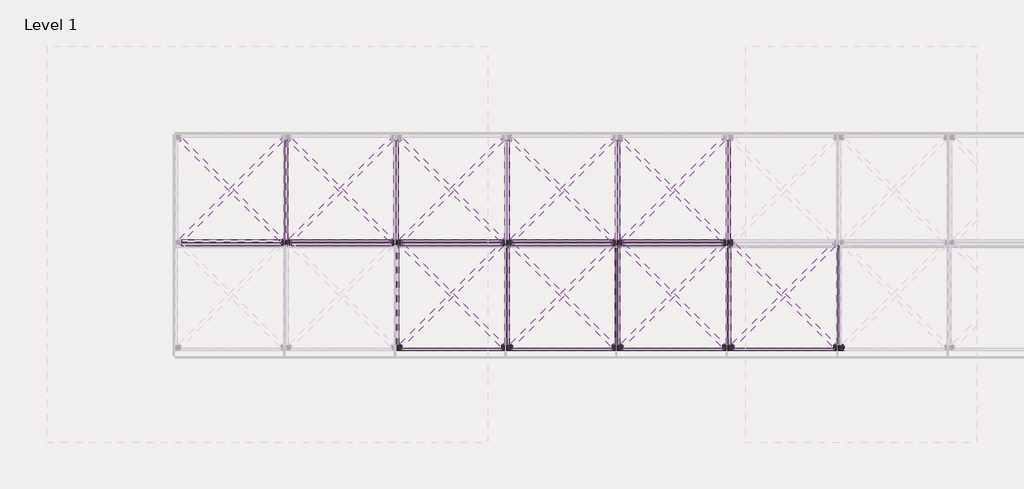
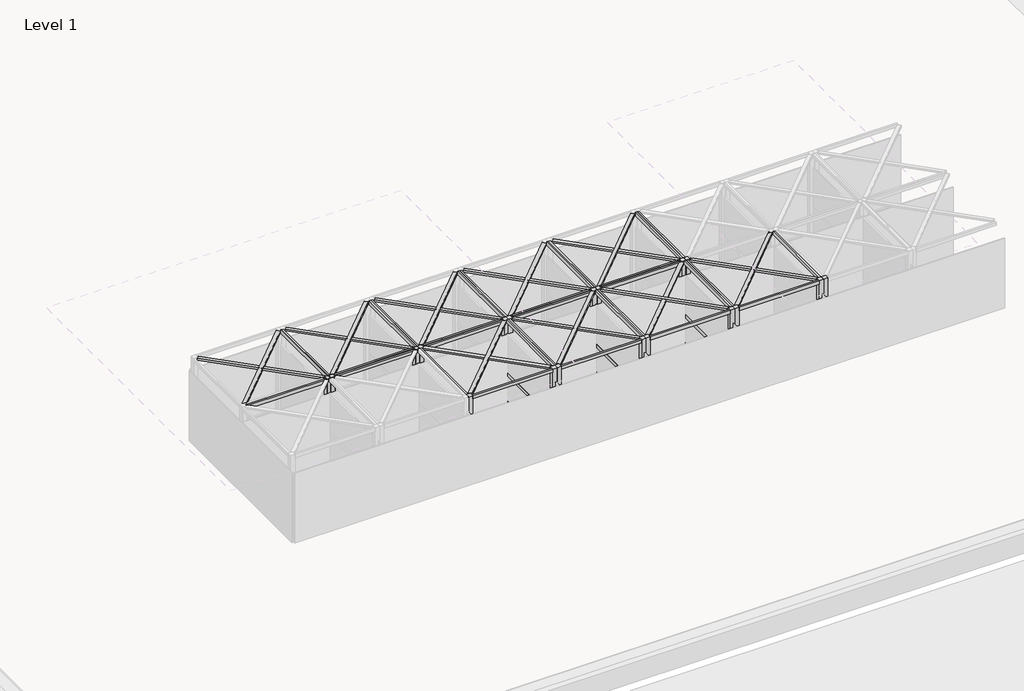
# One storey, part 18 of 32: 103 beams, 29 columns.
"""IFC4 building model written with IfcOpenShell, lengths in millimetres."""

from ifc_helpers import new_model, si_unit, origin, place, context, project, spatial, transform, mapped, element, save
from components import timber_gauged_nz_100_x_50_a05adcf6, timber_gauged_nz_100_x_50_e4b9d06e, timber_gauged_nz_100_x_50_66b63d81, timber_gauged_nz_100_x_50_718b6390, timber_gauged_nz_100_x_50_7774ab14, timber_gauged_nz_100_x_50_be6c7ca1, timber_gauged_nz_100_x_50_6be5a70a, timber_gauged_nz_100_x_50_7b7bee40, timber_gauged_nz_100_x_50_flat_212af973, timber_gauged_nz_100_x_50_flat_8016973c, column_timber_m_114x114_3b5997c2

model = new_model("IFC4")

# Units and contexts
model_context = context("Model", 3, world=origin())
ifc_project = project(units=[si_unit("LENGTHUNIT", "METRE", prefix="MILLI")], contexts=[model_context])

# Site, building, storey
site = spatial("IfcSite", under=ifc_project)
building = spatial("IfcBuilding", under=site)
storey = spatial("IfcBuildingStorey", under=building, Name="Level 1", Elevation=2800.0)

# Beams
placement = place(None, origin())
timber_gauged_nz_100_x_50_shape = timber_gauged_nz_100_x_50_a05adcf6(model_context)
element("IfcBeam", 1, ObjectType="Timber Gauged (NZ) : 100 x 50", at=placement, inside=storey, context=model_context, shape_type="MappedRepresentation", body=[
    mapped(timber_gauged_nz_100_x_50_shape, transform((-77195.3056755, -25111.9011548, 2847.0), x_axis=(1.0, 0.0, 0.0), y_axis=(0.0, 1.0, 0.0), z_axis=(0.0, 0.0, 1.0))),
])
element("IfcBeam", 2, ObjectType="Timber Gauged (NZ) : 100 x 50", at=placement, inside=storey, context=model_context, shape_type="MappedRepresentation", body=[
    mapped(timber_gauged_nz_100_x_50_shape, transform((-74799.6556755, -25111.9011548, 2847.0), x_axis=(1.0, 0.0, 0.0), y_axis=(0.0, 1.0, 0.0), z_axis=(0.0, 0.0, 1.0))),
])
element("IfcBeam", 3, ObjectType="Timber Gauged (NZ) : 100 x 50", at=placement, inside=storey, context=model_context, shape_type="MappedRepresentation", body=[
    mapped(timber_gauged_nz_100_x_50_shape, transform((-72399.6556755, -25111.9011548, 2847.0), x_axis=(1.0, 0.0, 0.0), y_axis=(0.0, 1.0, 0.0), z_axis=(0.0, 0.0, 1.0))),
])
element("IfcBeam", 4, ObjectType="Timber Gauged (NZ) : 100 x 50", at=placement, inside=storey, context=model_context, shape_type="MappedRepresentation", body=[
    mapped(timber_gauged_nz_100_x_50_shape, transform((-69999.6556755, -25111.9011548, 2847.0), x_axis=(1.0, 0.0, 0.0), y_axis=(0.0, 1.0, 0.0), z_axis=(0.0, 0.0, 1.0))),
])
element("IfcBeam", 5, ObjectType="Timber Gauged (NZ) : 100 x 50", at=placement, inside=storey, context=model_context, shape_type="MappedRepresentation", body=[
    mapped(timber_gauged_nz_100_x_50_shape, transform((-69999.6556755, -25182.1175809, 2847.0), x_axis=(-1.0, 0.0, 0.0), y_axis=(0.0, -1.0, 0.0), z_axis=(0.0, 0.0, 1.0))),
])
element("IfcBeam", 6, ObjectType="Timber Gauged (NZ) : 100 x 50", at=placement, inside=storey, context=model_context, shape_type="MappedRepresentation", body=[
    mapped(timber_gauged_nz_100_x_50_shape, transform((-72399.6556755, -25182.1175809, 2847.0), x_axis=(-1.0, 0.0, 0.0), y_axis=(0.0, -1.0, 0.0), z_axis=(0.0, 0.0, 1.0))),
])
element("IfcBeam", 7, ObjectType="Timber Gauged (NZ) : 100 x 50", at=placement, inside=storey, context=model_context, shape_type="MappedRepresentation", body=[
    mapped(timber_gauged_nz_100_x_50_shape, transform((-74804.0056755, -25182.1175809, 2847.0), x_axis=(-1.0, 0.0, 0.0), y_axis=(0.0, -1.0, 0.0), z_axis=(0.0, 0.0, 1.0))),
])
element("IfcBeam", 8, ObjectType="Timber Gauged (NZ) : 100 x 50", at=placement, inside=storey, context=model_context, shape_type="MappedRepresentation", body=[
    mapped(timber_gauged_nz_100_x_50_shape, transform((-77208.3556755, -25182.1175809, 2847.0), x_axis=(-1.0, 0.0, 0.0), y_axis=(0.0, -1.0, 0.0), z_axis=(0.0, 0.0, 1.0))),
])
element("IfcBeam", 9, ObjectType="Timber Gauged (NZ) : 100 x 50", at=placement, inside=storey, context=model_context, shape_type="MappedRepresentation", body=[
    mapped(timber_gauged_nz_100_x_50_shape, transform((-79588.3556755, -25182.1175809, 2847.0), x_axis=(-1.0, 0.0, 0.0), y_axis=(0.0, -1.0, 0.0), z_axis=(0.0, 0.0, 1.0))),
])
timber_gauged_nz_100_x_50_2_shape = timber_gauged_nz_100_x_50_e4b9d06e(model_context)
element("IfcBeam", 10, ObjectType="Timber Gauged (NZ) : 100 x 50", at=placement, inside=storey, context=model_context, shape_type="MappedRepresentation", body=[
    mapped(timber_gauged_nz_100_x_50_2_shape, transform((-74812.8306755, -27464.9011548, 2847.0), x_axis=(1.0, 0.0, 0.0), y_axis=(0.0, 1.0, 0.0), z_axis=(0.0, 0.0, 1.0))),
])
element("IfcBeam", 11, ObjectType="Timber Gauged (NZ) : 100 x 50", at=placement, inside=storey, context=model_context, shape_type="MappedRepresentation", body=[
    mapped(timber_gauged_nz_100_x_50_2_shape, transform((-72412.8306755, -27464.9011548, 2847.0), x_axis=(1.0, 0.0, 0.0), y_axis=(0.0, 1.0, 0.0), z_axis=(0.0, 0.0, 1.0))),
])
element("IfcBeam", 12, ObjectType="Timber Gauged (NZ) : 100 x 50", at=placement, inside=storey, context=model_context, shape_type="MappedRepresentation", body=[
    mapped(timber_gauged_nz_100_x_50_2_shape, transform((-70012.8306755, -27464.9011548, 2847.0), x_axis=(1.0, 0.0, 0.0), y_axis=(0.0, 1.0, 0.0), z_axis=(0.0, 0.0, 1.0))),
])
element("IfcBeam", 13, ObjectType="Timber Gauged (NZ) : 100 x 50", at=placement, inside=storey, context=model_context, shape_type="MappedRepresentation", body=[
    mapped(timber_gauged_nz_100_x_50_2_shape, transform((-67608.4806755, -27464.9011548, 2847.0), x_axis=(1.0, 0.0, 0.0), y_axis=(0.0, 1.0, 0.0), z_axis=(0.0, 0.0, 1.0))),
])
timber_gauged_nz_100_x_50_3_shape = timber_gauged_nz_100_x_50_66b63d81(model_context)
element("IfcBeam", 14, ObjectType="Timber Gauged (NZ) : 100 x 50", at=placement, inside=storey, context=model_context, shape_type="MappedRepresentation", body=[
    mapped(timber_gauged_nz_100_x_50_3_shape, transform((-75976.1556755, -26288.4011548, 2847.0), x_axis=(0.0, -1.0, 0.0), y_axis=(1.0, 0.0, 0.0), z_axis=(0.0, 0.0, 1.0))),
])
element("IfcBeam", 15, ObjectType="Timber Gauged (NZ) : 100 x 50", at=placement, inside=storey, context=model_context, shape_type="MappedRepresentation", body=[
    mapped(timber_gauged_nz_100_x_50_3_shape, transform((-73576.1556755, -26288.4011548, 2847.0), x_axis=(0.0, -1.0, 0.0), y_axis=(1.0, 0.0, 0.0), z_axis=(0.0, 0.0, 1.0))),
])
element("IfcBeam", 16, ObjectType="Timber Gauged (NZ) : 100 x 50", at=placement, inside=storey, context=model_context, shape_type="MappedRepresentation", body=[
    mapped(timber_gauged_nz_100_x_50_3_shape, transform((-71176.1556755, -26288.4011548, 2847.0), x_axis=(0.0, -1.0, 0.0), y_axis=(1.0, 0.0, 0.0), z_axis=(0.0, 0.0, 1.0))),
])
element("IfcBeam", 17, ObjectType="Timber Gauged (NZ) : 100 x 50", at=placement, inside=storey, context=model_context, shape_type="MappedRepresentation", body=[
    mapped(timber_gauged_nz_100_x_50_3_shape, transform((-68771.8056755, -26288.4011548, 2847.0), x_axis=(0.0, -1.0, 0.0), y_axis=(1.0, 0.0, 0.0), z_axis=(0.0, 0.0, 1.0))),
])
element("IfcBeam", 18, ObjectType="Timber Gauged (NZ) : 100 x 50", at=placement, inside=storey, context=model_context, shape_type="MappedRepresentation", body=[
    mapped(timber_gauged_nz_100_x_50_3_shape, transform((-68823.1556755, -24005.6175809, 2847.0), x_axis=(0.0, 1.0, 0.0), y_axis=(-1.0, 0.0, 0.0), z_axis=(0.0, 0.0, 1.0))),
])
element("IfcBeam", 19, ObjectType="Timber Gauged (NZ) : 100 x 50", at=placement, inside=storey, context=model_context, shape_type="MappedRepresentation", body=[
    mapped(timber_gauged_nz_100_x_50_3_shape, transform((-71223.1556755, -24005.6175809, 2847.0), x_axis=(0.0, 1.0, 0.0), y_axis=(-1.0, 0.0, 0.0), z_axis=(0.0, 0.0, 1.0))),
])
element("IfcBeam", 20, ObjectType="Timber Gauged (NZ) : 100 x 50", at=placement, inside=storey, context=model_context, shape_type="MappedRepresentation", body=[
    mapped(timber_gauged_nz_100_x_50_3_shape, transform((-73627.5056755, -24005.6175809, 2847.0), x_axis=(0.0, 1.0, 0.0), y_axis=(-1.0, 0.0, 0.0), z_axis=(0.0, 0.0, 1.0))),
])
element("IfcBeam", 21, ObjectType="Timber Gauged (NZ) : 100 x 50", at=placement, inside=storey, context=model_context, shape_type="MappedRepresentation", body=[
    mapped(timber_gauged_nz_100_x_50_3_shape, transform((-76031.8556755, -24005.6175809, 2847.0), x_axis=(0.0, 1.0, 0.0), y_axis=(-1.0, 0.0, 0.0), z_axis=(0.0, 0.0, 1.0))),
])
element("IfcBeam", 22, ObjectType="Timber Gauged (NZ) : 100 x 50", at=placement, inside=storey, context=model_context, shape_type="MappedRepresentation", body=[
    mapped(timber_gauged_nz_100_x_50_3_shape, transform((-78411.8556755, -24005.6175809, 2847.0), x_axis=(0.0, 1.0, 0.0), y_axis=(-1.0, 0.0, 0.0), z_axis=(0.0, 0.0, 1.0))),
])
element("IfcBeam", 23, ObjectType="Timber Gauged (NZ) : 100 x 50", at=placement, inside=storey, context=model_context, shape_type="MappedRepresentation", body=[
    mapped(timber_gauged_nz_100_x_50_3_shape, transform((-73623.1556755, -26288.4011548, 2847.0), x_axis=(0.0, -1.0, 0.0), y_axis=(1.0, 0.0, 0.0), z_axis=(0.0, 0.0, 1.0))),
])
element("IfcBeam", 24, ObjectType="Timber Gauged (NZ) : 100 x 50", at=placement, inside=storey, context=model_context, shape_type="MappedRepresentation", body=[
    mapped(timber_gauged_nz_100_x_50_3_shape, transform((-71223.1556755, -26288.4011548, 2847.0), x_axis=(0.0, -1.0, 0.0), y_axis=(1.0, 0.0, 0.0), z_axis=(0.0, 0.0, 1.0))),
])
element("IfcBeam", 25, ObjectType="Timber Gauged (NZ) : 100 x 50", at=placement, inside=storey, context=model_context, shape_type="MappedRepresentation", body=[
    mapped(timber_gauged_nz_100_x_50_3_shape, transform((-68823.1556755, -26288.4011548, 2847.0), x_axis=(0.0, -1.0, 0.0), y_axis=(1.0, 0.0, 0.0), z_axis=(0.0, 0.0, 1.0))),
])
element("IfcBeam", 26, ObjectType="Timber Gauged (NZ) : 100 x 50", at=placement, inside=storey, context=model_context, shape_type="MappedRepresentation", body=[
    mapped(timber_gauged_nz_100_x_50_3_shape, transform((-66418.8056755, -26288.4011548, 2847.0), x_axis=(0.0, -1.0, 0.0), y_axis=(1.0, 0.0, 0.0), z_axis=(0.0, 0.0, 1.0))),
])
element("IfcBeam", 27, ObjectType="Timber Gauged (NZ) : 100 x 50", at=placement, inside=storey, context=model_context, shape_type="MappedRepresentation", body=[
    mapped(timber_gauged_nz_100_x_50_3_shape, transform((-68776.1556755, -24005.6175809, 2847.0), x_axis=(0.0, 1.0, 0.0), y_axis=(-1.0, 0.0, 0.0), z_axis=(0.0, 0.0, 1.0))),
])
element("IfcBeam", 28, ObjectType="Timber Gauged (NZ) : 100 x 50", at=placement, inside=storey, context=model_context, shape_type="MappedRepresentation", body=[
    mapped(timber_gauged_nz_100_x_50_3_shape, transform((-71176.1556755, -24005.6175809, 2847.0), x_axis=(0.0, 1.0, 0.0), y_axis=(-1.0, 0.0, 0.0), z_axis=(0.0, 0.0, 1.0))),
])
element("IfcBeam", 29, ObjectType="Timber Gauged (NZ) : 100 x 50", at=placement, inside=storey, context=model_context, shape_type="MappedRepresentation", body=[
    mapped(timber_gauged_nz_100_x_50_3_shape, transform((-73576.1556755, -24005.6175809, 2847.0), x_axis=(0.0, 1.0, 0.0), y_axis=(-1.0, 0.0, 0.0), z_axis=(0.0, 0.0, 1.0))),
])
element("IfcBeam", 30, ObjectType="Timber Gauged (NZ) : 100 x 50", at=placement, inside=storey, context=model_context, shape_type="MappedRepresentation", body=[
    mapped(timber_gauged_nz_100_x_50_3_shape, transform((-75980.5056755, -24005.6175809, 2847.0), x_axis=(0.0, 1.0, 0.0), y_axis=(-1.0, 0.0, 0.0), z_axis=(0.0, 0.0, 1.0))),
])
element("IfcBeam", 31, ObjectType="Timber Gauged (NZ) : 100 x 50", at=placement, inside=storey, context=model_context, shape_type="MappedRepresentation", body=[
    mapped(timber_gauged_nz_100_x_50_3_shape, transform((-78384.8556755, -24005.6175809, 2847.0), x_axis=(0.0, 1.0, 0.0), y_axis=(-1.0, 0.0, 0.0), z_axis=(0.0, 0.0, 1.0))),
])
timber_gauged_nz_100_x_50_4_shape = timber_gauged_nz_100_x_50_718b6390(model_context)
element("IfcBeam", 32, ObjectType="Timber Gauged (NZ) : 100 x 50", at=placement, inside=storey, context=model_context, shape_type="MappedRepresentation", body=[
    mapped(timber_gauged_nz_100_x_50_4_shape, transform((-79607.5056755, -25111.9011548, 3653.0), x_axis=(1.0, 0.0, 0.0), y_axis=(0.0, 1.0, 0.0), z_axis=(0.0, 0.0, 1.0))),
])
element("IfcBeam", 33, ObjectType="Timber Gauged (NZ) : 100 x 50", at=placement, inside=storey, context=model_context, shape_type="MappedRepresentation", body=[
    mapped(timber_gauged_nz_100_x_50_4_shape, transform((-77203.1556755, -25111.9011548, 5153.0), x_axis=(1.0, 0.0, 0.0), y_axis=(0.0, 1.0, 0.0), z_axis=(0.0, 0.0, 1.0))),
])
element("IfcBeam", 34, ObjectType="Timber Gauged (NZ) : 100 x 50", at=placement, inside=storey, context=model_context, shape_type="MappedRepresentation", body=[
    mapped(timber_gauged_nz_100_x_50_4_shape, transform((-77203.1556755, -25111.9011548, 3653.0), x_axis=(1.0, 0.0, 0.0), y_axis=(0.0, 1.0, 0.0), z_axis=(0.0, 0.0, 1.0))),
])
element("IfcBeam", 35, ObjectType="Timber Gauged (NZ) : 100 x 50", at=placement, inside=storey, context=model_context, shape_type="MappedRepresentation", body=[
    mapped(timber_gauged_nz_100_x_50_4_shape, transform((-74807.5056755, -25111.9011548, 5153.0), x_axis=(1.0, 0.0, 0.0), y_axis=(0.0, 1.0, 0.0), z_axis=(0.0, 0.0, 1.0))),
])
element("IfcBeam", 36, ObjectType="Timber Gauged (NZ) : 100 x 50", at=placement, inside=storey, context=model_context, shape_type="MappedRepresentation", body=[
    mapped(timber_gauged_nz_100_x_50_4_shape, transform((-74807.5056755, -25111.9011548, 3653.0), x_axis=(1.0, 0.0, 0.0), y_axis=(0.0, 1.0, 0.0), z_axis=(0.0, 0.0, 1.0))),
])
element("IfcBeam", 37, ObjectType="Timber Gauged (NZ) : 100 x 50", at=placement, inside=storey, context=model_context, shape_type="MappedRepresentation", body=[
    mapped(timber_gauged_nz_100_x_50_4_shape, transform((-72407.5056755, -25111.9011548, 5153.0), x_axis=(1.0, 0.0, 0.0), y_axis=(0.0, 1.0, 0.0), z_axis=(0.0, 0.0, 1.0))),
])
element("IfcBeam", 38, ObjectType="Timber Gauged (NZ) : 100 x 50", at=placement, inside=storey, context=model_context, shape_type="MappedRepresentation", body=[
    mapped(timber_gauged_nz_100_x_50_4_shape, transform((-72407.5056755, -25111.9011548, 3653.0), x_axis=(1.0, 0.0, 0.0), y_axis=(0.0, 1.0, 0.0), z_axis=(0.0, 0.0, 1.0))),
])
element("IfcBeam", 39, ObjectType="Timber Gauged (NZ) : 100 x 50", at=placement, inside=storey, context=model_context, shape_type="MappedRepresentation", body=[
    mapped(timber_gauged_nz_100_x_50_4_shape, transform((-70007.5056755, -25111.9011548, 5153.0), x_axis=(1.0, 0.0, 0.0), y_axis=(0.0, 1.0, 0.0), z_axis=(0.0, 0.0, 1.0))),
])
element("IfcBeam", 40, ObjectType="Timber Gauged (NZ) : 100 x 50", at=placement, inside=storey, context=model_context, shape_type="MappedRepresentation", body=[
    mapped(timber_gauged_nz_100_x_50_4_shape, transform((-70007.5056755, -25111.9011548, 3653.0), x_axis=(1.0, 0.0, 0.0), y_axis=(0.0, 1.0, 0.0), z_axis=(0.0, 0.0, 1.0))),
])
element("IfcBeam", 41, ObjectType="Timber Gauged (NZ) : 100 x 50", at=placement, inside=storey, context=model_context, shape_type="MappedRepresentation", body=[
    mapped(timber_gauged_nz_100_x_50_4_shape, transform((-69991.8056755, -25182.1175809, 5153.0), x_axis=(-1.0, 0.0, 0.0), y_axis=(0.0, -1.0, 0.0), z_axis=(0.0, 0.0, 1.0))),
])
element("IfcBeam", 42, ObjectType="Timber Gauged (NZ) : 100 x 50", at=placement, inside=storey, context=model_context, shape_type="MappedRepresentation", body=[
    mapped(timber_gauged_nz_100_x_50_4_shape, transform((-69991.8056755, -25182.1175809, 3653.0), x_axis=(-1.0, 0.0, 0.0), y_axis=(0.0, -1.0, 0.0), z_axis=(0.0, 0.0, 1.0))),
])
element("IfcBeam", 43, ObjectType="Timber Gauged (NZ) : 100 x 50", at=placement, inside=storey, context=model_context, shape_type="MappedRepresentation", body=[
    mapped(timber_gauged_nz_100_x_50_4_shape, transform((-72391.8056755, -25182.1175809, 5153.0), x_axis=(-1.0, 0.0, 0.0), y_axis=(0.0, -1.0, 0.0), z_axis=(0.0, 0.0, 1.0))),
])
element("IfcBeam", 44, ObjectType="Timber Gauged (NZ) : 100 x 50", at=placement, inside=storey, context=model_context, shape_type="MappedRepresentation", body=[
    mapped(timber_gauged_nz_100_x_50_4_shape, transform((-72391.8056755, -25182.1175809, 3653.0), x_axis=(-1.0, 0.0, 0.0), y_axis=(0.0, -1.0, 0.0), z_axis=(0.0, 0.0, 1.0))),
])
element("IfcBeam", 45, ObjectType="Timber Gauged (NZ) : 100 x 50", at=placement, inside=storey, context=model_context, shape_type="MappedRepresentation", body=[
    mapped(timber_gauged_nz_100_x_50_4_shape, transform((-74796.1556755, -25182.1175809, 5153.0), x_axis=(-1.0, 0.0, 0.0), y_axis=(0.0, -1.0, 0.0), z_axis=(0.0, 0.0, 1.0))),
])
element("IfcBeam", 46, ObjectType="Timber Gauged (NZ) : 100 x 50", at=placement, inside=storey, context=model_context, shape_type="MappedRepresentation", body=[
    mapped(timber_gauged_nz_100_x_50_4_shape, transform((-74796.1556755, -25182.1175809, 3653.0), x_axis=(-1.0, 0.0, 0.0), y_axis=(0.0, -1.0, 0.0), z_axis=(0.0, 0.0, 1.0))),
])
element("IfcBeam", 47, ObjectType="Timber Gauged (NZ) : 100 x 50", at=placement, inside=storey, context=model_context, shape_type="MappedRepresentation", body=[
    mapped(timber_gauged_nz_100_x_50_4_shape, transform((-77200.5056755, -25182.1175809, 5153.0), x_axis=(-1.0, 0.0, 0.0), y_axis=(0.0, -1.0, 0.0), z_axis=(0.0, 0.0, 1.0))),
])
element("IfcBeam", 48, ObjectType="Timber Gauged (NZ) : 100 x 50", at=placement, inside=storey, context=model_context, shape_type="MappedRepresentation", body=[
    mapped(timber_gauged_nz_100_x_50_4_shape, transform((-77200.5056755, -25182.1175809, 3653.0), x_axis=(-1.0, 0.0, 0.0), y_axis=(0.0, -1.0, 0.0), z_axis=(0.0, 0.0, 1.0))),
])
element("IfcBeam", 49, ObjectType="Timber Gauged (NZ) : 100 x 50", at=placement, inside=storey, context=model_context, shape_type="MappedRepresentation", body=[
    mapped(timber_gauged_nz_100_x_50_4_shape, transform((-79580.5056755, -25182.1175809, 5153.0), x_axis=(-1.0, 0.0, 0.0), y_axis=(0.0, -1.0, 0.0), z_axis=(0.0, 0.0, 1.0))),
])
element("IfcBeam", 50, ObjectType="Timber Gauged (NZ) : 100 x 50", at=placement, inside=storey, context=model_context, shape_type="MappedRepresentation", body=[
    mapped(timber_gauged_nz_100_x_50_4_shape, transform((-79580.5056755, -25182.1175809, 3653.0), x_axis=(-1.0, 0.0, 0.0), y_axis=(0.0, -1.0, 0.0), z_axis=(0.0, 0.0, 1.0))),
])
timber_gauged_nz_100_x_50_5_shape = timber_gauged_nz_100_x_50_7774ab14(model_context)
element("IfcBeam", 51, ObjectType="Timber Gauged (NZ) : 100 x 50", at=placement, inside=storey, context=model_context, shape_type="MappedRepresentation", body=[
    mapped(timber_gauged_nz_100_x_50_5_shape, transform((-74795.0056755, -27464.9011548, 5153.0), x_axis=(1.0, 0.0, 0.0), y_axis=(0.0, 1.0, 0.0), z_axis=(0.0, 0.0, 1.0))),
])
element("IfcBeam", 52, ObjectType="Timber Gauged (NZ) : 100 x 50", at=placement, inside=storey, context=model_context, shape_type="MappedRepresentation", body=[
    mapped(timber_gauged_nz_100_x_50_5_shape, transform((-72395.0056755, -27464.9011548, 5153.0), x_axis=(1.0, 0.0, 0.0), y_axis=(0.0, 1.0, 0.0), z_axis=(0.0, 0.0, 1.0))),
])
element("IfcBeam", 53, ObjectType="Timber Gauged (NZ) : 100 x 50", at=placement, inside=storey, context=model_context, shape_type="MappedRepresentation", body=[
    mapped(timber_gauged_nz_100_x_50_5_shape, transform((-69995.0056755, -27464.9011548, 5153.0), x_axis=(1.0, 0.0, 0.0), y_axis=(0.0, 1.0, 0.0), z_axis=(0.0, 0.0, 1.0))),
])
element("IfcBeam", 54, ObjectType="Timber Gauged (NZ) : 100 x 50", at=placement, inside=storey, context=model_context, shape_type="MappedRepresentation", body=[
    mapped(timber_gauged_nz_100_x_50_5_shape, transform((-67590.6556755, -27464.9011548, 5153.0), x_axis=(1.0, 0.0, 0.0), y_axis=(0.0, 1.0, 0.0), z_axis=(0.0, 0.0, 1.0))),
])
timber_gauged_nz_100_x_50_6_shape = timber_gauged_nz_100_x_50_be6c7ca1(model_context)
element("IfcBeam", 55, ObjectType="Timber Gauged (NZ) : 100 x 50", at=placement, inside=storey, context=model_context, shape_type="MappedRepresentation", body=[
    mapped(timber_gauged_nz_100_x_50_6_shape, transform((-75976.1556755, -26219.9011548, 5153.0), x_axis=(0.0, -1.0, 0.0), y_axis=(1.0, 0.0, 0.0), z_axis=(0.0, 0.0, 1.0))),
])
element("IfcBeam", 56, ObjectType="Timber Gauged (NZ) : 100 x 50", at=placement, inside=storey, context=model_context, shape_type="MappedRepresentation", body=[
    mapped(timber_gauged_nz_100_x_50_6_shape, transform((-73576.1556755, -26219.9011548, 5153.0), x_axis=(0.0, -1.0, 0.0), y_axis=(1.0, 0.0, 0.0), z_axis=(0.0, 0.0, 1.0))),
])
element("IfcBeam", 57, ObjectType="Timber Gauged (NZ) : 100 x 50", at=placement, inside=storey, context=model_context, shape_type="MappedRepresentation", body=[
    mapped(timber_gauged_nz_100_x_50_6_shape, transform((-71176.1556755, -26219.9011548, 5153.0), x_axis=(0.0, -1.0, 0.0), y_axis=(1.0, 0.0, 0.0), z_axis=(0.0, 0.0, 1.0))),
])
element("IfcBeam", 58, ObjectType="Timber Gauged (NZ) : 100 x 50", at=placement, inside=storey, context=model_context, shape_type="MappedRepresentation", body=[
    mapped(timber_gauged_nz_100_x_50_6_shape, transform((-68771.8056755, -26219.9011548, 5153.0), x_axis=(0.0, -1.0, 0.0), y_axis=(1.0, 0.0, 0.0), z_axis=(0.0, 0.0, 1.0))),
])
element("IfcBeam", 59, ObjectType="Timber Gauged (NZ) : 100 x 50", at=placement, inside=storey, context=model_context, shape_type="MappedRepresentation", body=[
    mapped(timber_gauged_nz_100_x_50_6_shape, transform((-68823.1556755, -24074.1175809, 5153.0), x_axis=(0.0, 1.0, 0.0), y_axis=(-1.0, 0.0, 0.0), z_axis=(0.0, 0.0, 1.0))),
])
element("IfcBeam", 60, ObjectType="Timber Gauged (NZ) : 100 x 50", at=placement, inside=storey, context=model_context, shape_type="MappedRepresentation", body=[
    mapped(timber_gauged_nz_100_x_50_6_shape, transform((-71223.1556755, -24074.1175809, 5153.0), x_axis=(0.0, 1.0, 0.0), y_axis=(-1.0, 0.0, 0.0), z_axis=(0.0, 0.0, 1.0))),
])
element("IfcBeam", 61, ObjectType="Timber Gauged (NZ) : 100 x 50", at=placement, inside=storey, context=model_context, shape_type="MappedRepresentation", body=[
    mapped(timber_gauged_nz_100_x_50_6_shape, transform((-73627.5056755, -24074.1175809, 5153.0), x_axis=(0.0, 1.0, 0.0), y_axis=(-1.0, 0.0, 0.0), z_axis=(0.0, 0.0, 1.0))),
])
element("IfcBeam", 62, ObjectType="Timber Gauged (NZ) : 100 x 50", at=placement, inside=storey, context=model_context, shape_type="MappedRepresentation", body=[
    mapped(timber_gauged_nz_100_x_50_6_shape, transform((-76031.8556755, -24074.1175809, 5153.0), x_axis=(0.0, 1.0, 0.0), y_axis=(-1.0, 0.0, 0.0), z_axis=(0.0, 0.0, 1.0))),
])
element("IfcBeam", 63, ObjectType="Timber Gauged (NZ) : 100 x 50", at=placement, inside=storey, context=model_context, shape_type="MappedRepresentation", body=[
    mapped(timber_gauged_nz_100_x_50_6_shape, transform((-78411.8556755, -24074.1175809, 5153.0), x_axis=(0.0, 1.0, 0.0), y_axis=(-1.0, 0.0, 0.0), z_axis=(0.0, 0.0, 1.0))),
])
timber_gauged_nz_100_x_50_7_shape = timber_gauged_nz_100_x_50_6be5a70a(model_context)
element("IfcBeam", 64, ObjectType="Timber Gauged (NZ) : 100 x 50", at=placement, inside=storey, context=model_context, shape_type="MappedRepresentation", body=[
    mapped(timber_gauged_nz_100_x_50_7_shape, transform((-73623.1556755, -26264.9011548, 5153.0), x_axis=(0.0, -1.0, 0.0), y_axis=(1.0, 0.0, 0.0), z_axis=(0.0, 0.0, 1.0))),
])
element("IfcBeam", 65, ObjectType="Timber Gauged (NZ) : 100 x 50", at=placement, inside=storey, context=model_context, shape_type="MappedRepresentation", body=[
    mapped(timber_gauged_nz_100_x_50_7_shape, transform((-71223.1556755, -26264.9011548, 5153.0), x_axis=(0.0, -1.0, 0.0), y_axis=(1.0, 0.0, 0.0), z_axis=(0.0, 0.0, 1.0))),
])
element("IfcBeam", 66, ObjectType="Timber Gauged (NZ) : 100 x 50", at=placement, inside=storey, context=model_context, shape_type="MappedRepresentation", body=[
    mapped(timber_gauged_nz_100_x_50_7_shape, transform((-68823.1556755, -26264.9011548, 5153.0), x_axis=(0.0, -1.0, 0.0), y_axis=(1.0, 0.0, 0.0), z_axis=(0.0, 0.0, 1.0))),
])
element("IfcBeam", 67, ObjectType="Timber Gauged (NZ) : 100 x 50", at=placement, inside=storey, context=model_context, shape_type="MappedRepresentation", body=[
    mapped(timber_gauged_nz_100_x_50_7_shape, transform((-66418.8056755, -26264.9011548, 5153.0), x_axis=(0.0, -1.0, 0.0), y_axis=(1.0, 0.0, 0.0), z_axis=(0.0, 0.0, 1.0))),
])
element("IfcBeam", 68, ObjectType="Timber Gauged (NZ) : 100 x 50", at=placement, inside=storey, context=model_context, shape_type="MappedRepresentation", body=[
    mapped(timber_gauged_nz_100_x_50_7_shape, transform((-68776.1556755, -24029.1175809, 5153.0), x_axis=(0.0, 1.0, 0.0), y_axis=(-1.0, 0.0, 0.0), z_axis=(0.0, 0.0, 1.0))),
])
element("IfcBeam", 69, ObjectType="Timber Gauged (NZ) : 100 x 50", at=placement, inside=storey, context=model_context, shape_type="MappedRepresentation", body=[
    mapped(timber_gauged_nz_100_x_50_7_shape, transform((-71176.1556755, -24029.1175809, 5153.0), x_axis=(0.0, 1.0, 0.0), y_axis=(-1.0, 0.0, 0.0), z_axis=(0.0, 0.0, 1.0))),
])
element("IfcBeam", 70, ObjectType="Timber Gauged (NZ) : 100 x 50", at=placement, inside=storey, context=model_context, shape_type="MappedRepresentation", body=[
    mapped(timber_gauged_nz_100_x_50_7_shape, transform((-73576.1556755, -24029.1175809, 5153.0), x_axis=(0.0, 1.0, 0.0), y_axis=(-1.0, 0.0, 0.0), z_axis=(0.0, 0.0, 1.0))),
])
element("IfcBeam", 71, ObjectType="Timber Gauged (NZ) : 100 x 50", at=placement, inside=storey, context=model_context, shape_type="MappedRepresentation", body=[
    mapped(timber_gauged_nz_100_x_50_7_shape, transform((-75980.5056755, -24029.1175809, 5153.0), x_axis=(0.0, 1.0, 0.0), y_axis=(-1.0, 0.0, 0.0), z_axis=(0.0, 0.0, 1.0))),
])
element("IfcBeam", 72, ObjectType="Timber Gauged (NZ) : 100 x 50", at=placement, inside=storey, context=model_context, shape_type="MappedRepresentation", body=[
    mapped(timber_gauged_nz_100_x_50_7_shape, transform((-78384.8556755, -24029.1175809, 5153.0), x_axis=(0.0, 1.0, 0.0), y_axis=(-1.0, 0.0, 0.0), z_axis=(0.0, 0.0, 1.0))),
])
timber_gauged_nz_100_x_50_8_shape = timber_gauged_nz_100_x_50_7b7bee40(model_context)
element("IfcBeam", 73, ObjectType="Timber Gauged (NZ) : 100 x 50", at=placement, inside=storey, context=model_context, shape_type="MappedRepresentation", body=[
    mapped(timber_gauged_nz_100_x_50_8_shape, transform((-75976.1556755, -26344.9011548, 3653.0), x_axis=(0.0, -1.0, 0.0), y_axis=(1.0, 0.0, 0.0), z_axis=(0.0, 0.0, 1.0))),
])
element("IfcBeam", 74, ObjectType="Timber Gauged (NZ) : 100 x 50", at=placement, inside=storey, context=model_context, shape_type="MappedRepresentation", body=[
    mapped(timber_gauged_nz_100_x_50_8_shape, transform((-73576.1556755, -26344.9011548, 3653.0), x_axis=(0.0, -1.0, 0.0), y_axis=(1.0, 0.0, 0.0), z_axis=(0.0, 0.0, 1.0))),
])
element("IfcBeam", 75, ObjectType="Timber Gauged (NZ) : 100 x 50", at=placement, inside=storey, context=model_context, shape_type="MappedRepresentation", body=[
    mapped(timber_gauged_nz_100_x_50_8_shape, transform((-71176.1556755, -26344.9011548, 3653.0), x_axis=(0.0, -1.0, 0.0), y_axis=(1.0, 0.0, 0.0), z_axis=(0.0, 0.0, 1.0))),
])
element("IfcBeam", 76, ObjectType="Timber Gauged (NZ) : 100 x 50", at=placement, inside=storey, context=model_context, shape_type="MappedRepresentation", body=[
    mapped(timber_gauged_nz_100_x_50_8_shape, transform((-68771.8056755, -26344.9011548, 3653.0), x_axis=(0.0, -1.0, 0.0), y_axis=(1.0, 0.0, 0.0), z_axis=(0.0, 0.0, 1.0))),
])
element("IfcBeam", 77, ObjectType="Timber Gauged (NZ) : 100 x 50", at=placement, inside=storey, context=model_context, shape_type="MappedRepresentation", body=[
    mapped(timber_gauged_nz_100_x_50_7_shape, transform((-73623.1556755, -26264.7011548, 3653.0), x_axis=(0.0, -1.0, 0.0), y_axis=(1.0, 0.0, 0.0), z_axis=(0.0, 0.0, 1.0))),
])
element("IfcBeam", 78, ObjectType="Timber Gauged (NZ) : 100 x 50", at=placement, inside=storey, context=model_context, shape_type="MappedRepresentation", body=[
    mapped(timber_gauged_nz_100_x_50_7_shape, transform((-71223.1556755, -26264.7011548, 3653.0), x_axis=(0.0, -1.0, 0.0), y_axis=(1.0, 0.0, 0.0), z_axis=(0.0, 0.0, 1.0))),
])
element("IfcBeam", 79, ObjectType="Timber Gauged (NZ) : 100 x 50", at=placement, inside=storey, context=model_context, shape_type="MappedRepresentation", body=[
    mapped(timber_gauged_nz_100_x_50_7_shape, transform((-68823.1556755, -26264.7011548, 3653.0), x_axis=(0.0, -1.0, 0.0), y_axis=(1.0, 0.0, 0.0), z_axis=(0.0, 0.0, 1.0))),
])
element("IfcBeam", 80, ObjectType="Timber Gauged (NZ) : 100 x 50", at=placement, inside=storey, context=model_context, shape_type="MappedRepresentation", body=[
    mapped(timber_gauged_nz_100_x_50_7_shape, transform((-66418.8056755, -26264.7011548, 3653.0), x_axis=(0.0, -1.0, 0.0), y_axis=(1.0, 0.0, 0.0), z_axis=(0.0, 0.0, 1.0))),
])
element("IfcBeam", 81, ObjectType="Timber Gauged (NZ) : 100 x 50", at=placement, inside=storey, context=model_context, shape_type="MappedRepresentation", body=[
    mapped(timber_gauged_nz_100_x_50_7_shape, transform((-68776.1556755, -24029.3175809, 3653.0), x_axis=(0.0, 1.0, 0.0), y_axis=(-1.0, 0.0, 0.0), z_axis=(0.0, 0.0, 1.0))),
])
element("IfcBeam", 82, ObjectType="Timber Gauged (NZ) : 100 x 50", at=placement, inside=storey, context=model_context, shape_type="MappedRepresentation", body=[
    mapped(timber_gauged_nz_100_x_50_7_shape, transform((-71176.1556755, -24029.3175809, 3653.0), x_axis=(0.0, 1.0, 0.0), y_axis=(-1.0, 0.0, 0.0), z_axis=(0.0, 0.0, 1.0))),
])
element("IfcBeam", 83, ObjectType="Timber Gauged (NZ) : 100 x 50", at=placement, inside=storey, context=model_context, shape_type="MappedRepresentation", body=[
    mapped(timber_gauged_nz_100_x_50_7_shape, transform((-73576.1556755, -24029.3175809, 3653.0), x_axis=(0.0, 1.0, 0.0), y_axis=(-1.0, 0.0, 0.0), z_axis=(0.0, 0.0, 1.0))),
])
element("IfcBeam", 84, ObjectType="Timber Gauged (NZ) : 100 x 50", at=placement, inside=storey, context=model_context, shape_type="MappedRepresentation", body=[
    mapped(timber_gauged_nz_100_x_50_7_shape, transform((-75980.5056755, -24029.3175809, 3653.0), x_axis=(0.0, 1.0, 0.0), y_axis=(-1.0, 0.0, 0.0), z_axis=(0.0, 0.0, 1.0))),
])
element("IfcBeam", 85, ObjectType="Timber Gauged (NZ) : 100 x 50", at=placement, inside=storey, context=model_context, shape_type="MappedRepresentation", body=[
    mapped(timber_gauged_nz_100_x_50_7_shape, transform((-78384.8556755, -24029.3175809, 3653.0), x_axis=(0.0, 1.0, 0.0), y_axis=(-1.0, 0.0, 0.0), z_axis=(0.0, 0.0, 1.0))),
])
timber_gauged_nz_100_x_50_flat_shape = timber_gauged_nz_100_x_50_flat_212af973(model_context)
element("IfcBeam", 86, ObjectType="Timber Gauged (NZ) : 100 x 50 Flat", at=placement, inside=storey, context=model_context, shape_type="MappedRepresentation", body=[
    mapped(timber_gauged_nz_100_x_50_flat_shape, transform((-74795.4150144, -26283.5138698, 5176.5), x_axis=(0.707106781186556, 0.7071067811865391, 0.0), y_axis=(-0.7071067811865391, 0.707106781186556, 0.0), z_axis=(0.0, 0.0, 1.0))),
])
element("IfcBeam", 87, ObjectType="Timber Gauged (NZ) : 100 x 50 Flat", at=placement, inside=storey, context=model_context, shape_type="MappedRepresentation", body=[
    mapped(timber_gauged_nz_100_x_50_flat_shape, transform((-72395.4150144, -26283.5138698, 5176.5), x_axis=(0.707106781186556, 0.7071067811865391, 0.0), y_axis=(-0.7071067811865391, 0.707106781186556, 0.0), z_axis=(0.0, 0.0, 1.0))),
])
element("IfcBeam", 88, ObjectType="Timber Gauged (NZ) : 100 x 50 Flat", at=placement, inside=storey, context=model_context, shape_type="MappedRepresentation", body=[
    mapped(timber_gauged_nz_100_x_50_flat_shape, transform((-69995.4150144, -26283.5138698, 5176.5), x_axis=(0.707106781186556, 0.7071067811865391, 0.0), y_axis=(-0.7071067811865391, 0.707106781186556, 0.0), z_axis=(0.0, 0.0, 1.0))),
])
element("IfcBeam", 89, ObjectType="Timber Gauged (NZ) : 100 x 50 Flat", at=placement, inside=storey, context=model_context, shape_type="MappedRepresentation", body=[
    mapped(timber_gauged_nz_100_x_50_flat_shape, transform((-67591.0650144, -26283.5138698, 5176.5), x_axis=(0.707106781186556, 0.7071067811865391, 0.0), y_axis=(-0.7071067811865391, 0.707106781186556, 0.0), z_axis=(0.0, 0.0, 1.0))),
])
element("IfcBeam", 90, ObjectType="Timber Gauged (NZ) : 100 x 50 Flat", at=placement, inside=storey, context=model_context, shape_type="MappedRepresentation", body=[
    mapped(timber_gauged_nz_100_x_50_flat_shape, transform((-70003.8963365, -24010.5048659, 5176.5), x_axis=(-0.7071067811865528, -0.7071067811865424, 0.0), y_axis=(0.7071067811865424, -0.7071067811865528, 0.0), z_axis=(0.0, 0.0, 1.0))),
])
element("IfcBeam", 91, ObjectType="Timber Gauged (NZ) : 100 x 50 Flat", at=placement, inside=storey, context=model_context, shape_type="MappedRepresentation", body=[
    mapped(timber_gauged_nz_100_x_50_flat_shape, transform((-72403.8963365, -24010.5048659, 5176.5), x_axis=(-0.7071067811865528, -0.7071067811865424, 0.0), y_axis=(0.7071067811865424, -0.7071067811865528, 0.0), z_axis=(0.0, 0.0, 1.0))),
])
element("IfcBeam", 92, ObjectType="Timber Gauged (NZ) : 100 x 50 Flat", at=placement, inside=storey, context=model_context, shape_type="MappedRepresentation", body=[
    mapped(timber_gauged_nz_100_x_50_flat_shape, transform((-74808.2463365, -24010.5048659, 5176.5), x_axis=(-0.7071067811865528, -0.7071067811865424, 0.0), y_axis=(0.7071067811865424, -0.7071067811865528, 0.0), z_axis=(0.0, 0.0, 1.0))),
])
element("IfcBeam", 93, ObjectType="Timber Gauged (NZ) : 100 x 50 Flat", at=placement, inside=storey, context=model_context, shape_type="MappedRepresentation", body=[
    mapped(timber_gauged_nz_100_x_50_flat_shape, transform((-77212.5963365, -24010.5048659, 5176.5), x_axis=(-0.7071067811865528, -0.7071067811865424, 0.0), y_axis=(0.7071067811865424, -0.7071067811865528, 0.0), z_axis=(0.0, 0.0, 1.0))),
])
element("IfcBeam", 94, ObjectType="Timber Gauged (NZ) : 100 x 50 Flat", at=placement, inside=storey, context=model_context, shape_type="MappedRepresentation", body=[
    mapped(timber_gauged_nz_100_x_50_flat_shape, transform((-79592.5963365, -24010.5048659, 5176.5), x_axis=(-0.7071067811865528, -0.7071067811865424, 0.0), y_axis=(0.7071067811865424, -0.7071067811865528, 0.0), z_axis=(0.0, 0.0, 1.0))),
])
timber_gauged_nz_100_x_50_flat_2_shape = timber_gauged_nz_100_x_50_flat_8016973c(model_context)
element("IfcBeam", 95, ObjectType="Timber Gauged (NZ) : 100 x 50 Flat", at=placement, inside=storey, context=model_context, shape_type="MappedRepresentation", body=[
    mapped(timber_gauged_nz_100_x_50_flat_2_shape, transform((-74849.1551298, -26238.2590359, 5176.5), x_axis=(0.7071067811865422, -0.7071067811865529, 0.0), y_axis=(0.7071067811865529, 0.7071067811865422, 0.0), z_axis=(0.0, 0.0, 1.0))),
])
element("IfcBeam", 96, ObjectType="Timber Gauged (NZ) : 100 x 50 Flat", at=placement, inside=storey, context=model_context, shape_type="MappedRepresentation", body=[
    mapped(timber_gauged_nz_100_x_50_flat_2_shape, transform((-72449.1551298, -26238.2590359, 5176.5), x_axis=(0.7071067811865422, -0.7071067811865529, 0.0), y_axis=(0.7071067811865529, 0.7071067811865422, 0.0), z_axis=(0.0, 0.0, 1.0))),
])
element("IfcBeam", 97, ObjectType="Timber Gauged (NZ) : 100 x 50 Flat", at=placement, inside=storey, context=model_context, shape_type="MappedRepresentation", body=[
    mapped(timber_gauged_nz_100_x_50_flat_2_shape, transform((-70049.1551298, -26238.2590359, 5176.5), x_axis=(0.7071067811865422, -0.7071067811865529, 0.0), y_axis=(0.7071067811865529, 0.7071067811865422, 0.0), z_axis=(0.0, 0.0, 1.0))),
])
element("IfcBeam", 98, ObjectType="Timber Gauged (NZ) : 100 x 50 Flat", at=placement, inside=storey, context=model_context, shape_type="MappedRepresentation", body=[
    mapped(timber_gauged_nz_100_x_50_flat_2_shape, transform((-67644.8051298, -26238.2590359, 5176.5), x_axis=(0.7071067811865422, -0.7071067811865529, 0.0), y_axis=(0.7071067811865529, 0.7071067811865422, 0.0), z_axis=(0.0, 0.0, 1.0))),
])
element("IfcBeam", 99, ObjectType="Timber Gauged (NZ) : 100 x 50 Flat", at=placement, inside=storey, context=model_context, shape_type="MappedRepresentation", body=[
    mapped(timber_gauged_nz_100_x_50_flat_2_shape, transform((-69950.1562211, -24055.7596999, 5176.5), x_axis=(-0.7071067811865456, 0.7071067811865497, 0.0), y_axis=(-0.7071067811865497, -0.7071067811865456, 0.0), z_axis=(0.0, 0.0, 1.0))),
])
element("IfcBeam", 100, ObjectType="Timber Gauged (NZ) : 100 x 50 Flat", at=placement, inside=storey, context=model_context, shape_type="MappedRepresentation", body=[
    mapped(timber_gauged_nz_100_x_50_flat_2_shape, transform((-72350.1562211, -24055.7596999, 5176.5), x_axis=(-0.7071067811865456, 0.7071067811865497, 0.0), y_axis=(-0.7071067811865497, -0.7071067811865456, 0.0), z_axis=(0.0, 0.0, 1.0))),
])
element("IfcBeam", 101, ObjectType="Timber Gauged (NZ) : 100 x 50 Flat", at=placement, inside=storey, context=model_context, shape_type="MappedRepresentation", body=[
    mapped(timber_gauged_nz_100_x_50_flat_2_shape, transform((-74754.5062211, -24055.7596999, 5176.5), x_axis=(-0.7071067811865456, 0.7071067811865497, 0.0), y_axis=(-0.7071067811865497, -0.7071067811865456, 0.0), z_axis=(0.0, 0.0, 1.0))),
])
element("IfcBeam", 102, ObjectType="Timber Gauged (NZ) : 100 x 50 Flat", at=placement, inside=storey, context=model_context, shape_type="MappedRepresentation", body=[
    mapped(timber_gauged_nz_100_x_50_flat_2_shape, transform((-77158.8562211, -24055.7596999, 5176.5), x_axis=(-0.7071067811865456, 0.7071067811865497, 0.0), y_axis=(-0.7071067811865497, -0.7071067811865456, 0.0), z_axis=(0.0, 0.0, 1.0))),
])
element("IfcBeam", 103, ObjectType="Timber Gauged (NZ) : 100 x 50 Flat", at=placement, inside=storey, context=model_context, shape_type="MappedRepresentation", body=[
    mapped(timber_gauged_nz_100_x_50_flat_2_shape, transform((-79538.8562211, -24055.7596999, 5176.5), x_axis=(-0.7071067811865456, 0.7071067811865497, 0.0), y_axis=(-0.7071067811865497, -0.7071067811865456, 0.0), z_axis=(0.0, 0.0, 1.0))),
])

# Columns
column_timber_m_114x114_shape = column_timber_m_114x114_3b5997c2(model_context)
element("IfcColumn", 104, ObjectType="Column Timber (M) : 114x114", at=placement, inside=storey, context=model_context, shape_type="MappedRepresentation", body=[
    mapped(column_timber_m_114x114_shape, transform((-78456.8056755, -25145.5511548, 0.0), x_axis=(1.0, 0.0, 0.0), y_axis=(0.0, 1.0, 0.0), z_axis=(0.0, 0.0, 1.0))),
])
element("IfcColumn", 105, ObjectType="Column Timber (M) : 114x114", at=placement, inside=storey, context=model_context, shape_type="MappedRepresentation", body=[
    mapped(column_timber_m_114x114_shape, transform((-78338.1556755, -25145.5511548, 0.0), x_axis=(1.0, 0.0, 0.0), y_axis=(0.0, 1.0, 0.0), z_axis=(0.0, 0.0, 1.0))),
])
element("IfcColumn", 106, ObjectType="Column Timber (M) : 114x114", at=placement, inside=storey, context=model_context, shape_type="MappedRepresentation", body=[
    mapped(column_timber_m_114x114_shape, transform((-76052.4556755, -25145.5511548, 0.0), x_axis=(1.0, 0.0, 0.0), y_axis=(0.0, 1.0, 0.0), z_axis=(0.0, 0.0, 1.0))),
])
element("IfcColumn", 107, ObjectType="Column Timber (M) : 114x114", at=placement, inside=storey, context=model_context, shape_type="MappedRepresentation", body=[
    mapped(column_timber_m_114x114_shape, transform((-75942.5056755, -27431.2511548, 0.0), x_axis=(1.0, 0.0, 0.0), y_axis=(0.0, 1.0, 0.0), z_axis=(0.0, 0.0, 1.0))),
])
element("IfcColumn", 108, ObjectType="Column Timber (M) : 114x114", at=placement, inside=storey, context=model_context, shape_type="MappedRepresentation", body=[
    mapped(column_timber_m_114x114_shape, transform((-75942.5056755, -25145.5511548, 0.0), x_axis=(1.0, 0.0, 0.0), y_axis=(0.0, 1.0, 0.0), z_axis=(0.0, 0.0, 1.0))),
])
element("IfcColumn", 109, ObjectType="Column Timber (M) : 114x114", at=placement, inside=storey, context=model_context, shape_type="MappedRepresentation", body=[
    mapped(column_timber_m_114x114_shape, transform((-73656.8056755, -25145.5511548, 0.0), x_axis=(1.0, 0.0, 0.0), y_axis=(0.0, 1.0, 0.0), z_axis=(0.0, 0.0, 1.0))),
])
element("IfcColumn", 110, ObjectType="Column Timber (M) : 114x114", at=placement, inside=storey, context=model_context, shape_type="MappedRepresentation", body=[
    mapped(column_timber_m_114x114_shape, transform((-73656.8056755, -27431.2511548, 0.0), x_axis=(1.0, 0.0, 0.0), y_axis=(0.0, 1.0, 0.0), z_axis=(0.0, 0.0, 1.0))),
])
element("IfcColumn", 111, ObjectType="Column Timber (M) : 114x114", at=placement, inside=storey, context=model_context, shape_type="MappedRepresentation", body=[
    mapped(column_timber_m_114x114_shape, transform((-73542.5056755, -27431.2511548, 0.0), x_axis=(1.0, 0.0, 0.0), y_axis=(0.0, 1.0, 0.0), z_axis=(0.0, 0.0, 1.0))),
])
element("IfcColumn", 112, ObjectType="Column Timber (M) : 114x114", at=placement, inside=storey, context=model_context, shape_type="MappedRepresentation", body=[
    mapped(column_timber_m_114x114_shape, transform((-73542.5056755, -25145.5511548, 0.0), x_axis=(1.0, 0.0, 0.0), y_axis=(0.0, 1.0, 0.0), z_axis=(0.0, 0.0, 1.0))),
])
element("IfcColumn", 113, ObjectType="Column Timber (M) : 114x114", at=placement, inside=storey, context=model_context, shape_type="MappedRepresentation", body=[
    mapped(column_timber_m_114x114_shape, transform((-71256.8056755, -25145.5511548, 0.0), x_axis=(1.0, 0.0, 0.0), y_axis=(0.0, 1.0, 0.0), z_axis=(0.0, 0.0, 1.0))),
])
element("IfcColumn", 114, ObjectType="Column Timber (M) : 114x114", at=placement, inside=storey, context=model_context, shape_type="MappedRepresentation", body=[
    mapped(column_timber_m_114x114_shape, transform((-71256.8056755, -27431.2511548, 0.0), x_axis=(1.0, 0.0, 0.0), y_axis=(0.0, 1.0, 0.0), z_axis=(0.0, 0.0, 1.0))),
])
element("IfcColumn", 115, ObjectType="Column Timber (M) : 114x114", at=placement, inside=storey, context=model_context, shape_type="MappedRepresentation", body=[
    mapped(column_timber_m_114x114_shape, transform((-71142.5056755, -27431.2511548, 0.0), x_axis=(1.0, 0.0, 0.0), y_axis=(0.0, 1.0, 0.0), z_axis=(0.0, 0.0, 1.0))),
])
element("IfcColumn", 116, ObjectType="Column Timber (M) : 114x114", at=placement, inside=storey, context=model_context, shape_type="MappedRepresentation", body=[
    mapped(column_timber_m_114x114_shape, transform((-71142.5056755, -25145.5511548, 0.0), x_axis=(1.0, 0.0, 0.0), y_axis=(0.0, 1.0, 0.0), z_axis=(0.0, 0.0, 1.0))),
])
element("IfcColumn", 117, ObjectType="Column Timber (M) : 114x114", at=placement, inside=storey, context=model_context, shape_type="MappedRepresentation", body=[
    mapped(column_timber_m_114x114_shape, transform((-68856.8056755, -25145.5511548, 0.0), x_axis=(1.0, 0.0, 0.0), y_axis=(0.0, 1.0, 0.0), z_axis=(0.0, 0.0, 1.0))),
])
element("IfcColumn", 118, ObjectType="Column Timber (M) : 114x114", at=placement, inside=storey, context=model_context, shape_type="MappedRepresentation", body=[
    mapped(column_timber_m_114x114_shape, transform((-68856.8056755, -27431.2511548, 0.0), x_axis=(1.0, 0.0, 0.0), y_axis=(0.0, 1.0, 0.0), z_axis=(0.0, 0.0, 1.0))),
])
element("IfcColumn", 119, ObjectType="Column Timber (M) : 114x114", at=placement, inside=storey, context=model_context, shape_type="MappedRepresentation", body=[
    mapped(column_timber_m_114x114_shape, transform((-68738.1556755, -27431.2511548, 0.0), x_axis=(1.0, 0.0, 0.0), y_axis=(0.0, 1.0, 0.0), z_axis=(0.0, 0.0, 1.0))),
])
element("IfcColumn", 120, ObjectType="Column Timber (M) : 114x114", at=placement, inside=storey, context=model_context, shape_type="MappedRepresentation", body=[
    mapped(column_timber_m_114x114_shape, transform((-68738.1556755, -25145.5511548, 0.0), x_axis=(1.0, 0.0, 0.0), y_axis=(0.0, 1.0, 0.0), z_axis=(0.0, 0.0, 1.0))),
])
element("IfcColumn", 121, ObjectType="Column Timber (M) : 114x114", at=placement, inside=storey, context=model_context, shape_type="MappedRepresentation", body=[
    mapped(column_timber_m_114x114_shape, transform((-66452.4556755, -27431.2511548, 0.0), x_axis=(1.0, 0.0, 0.0), y_axis=(0.0, 1.0, 0.0), z_axis=(0.0, 0.0, 1.0))),
])
element("IfcColumn", 122, ObjectType="Column Timber (M) : 114x114", at=placement, inside=storey, context=model_context, shape_type="MappedRepresentation", body=[
    mapped(column_timber_m_114x114_shape, transform((-66333.8056755, -27431.2511548, 0.0), x_axis=(1.0, 0.0, 0.0), y_axis=(0.0, 1.0, 0.0), z_axis=(0.0, 0.0, 1.0))),
])
element("IfcColumn", 123, ObjectType="Column Timber (M) : 114x114", at=placement, inside=storey, context=model_context, shape_type="MappedRepresentation", body=[
    mapped(column_timber_m_114x114_shape, transform((-68742.5056755, -25148.4675809, 0.0), x_axis=(-1.0, 0.0, 0.0), y_axis=(0.0, -1.0, 0.0), z_axis=(0.0, 0.0, 1.0))),
])
element("IfcColumn", 124, ObjectType="Column Timber (M) : 114x114", at=placement, inside=storey, context=model_context, shape_type="MappedRepresentation", body=[
    mapped(column_timber_m_114x114_shape, transform((-68856.8056755, -25148.4675809, 0.0), x_axis=(-1.0, 0.0, 0.0), y_axis=(0.0, -1.0, 0.0), z_axis=(0.0, 0.0, 1.0))),
])
element("IfcColumn", 125, ObjectType="Column Timber (M) : 114x114", at=placement, inside=storey, context=model_context, shape_type="MappedRepresentation", body=[
    mapped(column_timber_m_114x114_shape, transform((-71142.5056755, -25148.4675809, 0.0), x_axis=(-1.0, 0.0, 0.0), y_axis=(0.0, -1.0, 0.0), z_axis=(0.0, 0.0, 1.0))),
])
element("IfcColumn", 126, ObjectType="Column Timber (M) : 114x114", at=placement, inside=storey, context=model_context, shape_type="MappedRepresentation", body=[
    mapped(column_timber_m_114x114_shape, transform((-71256.8056755, -25148.4675809, 0.0), x_axis=(-1.0, 0.0, 0.0), y_axis=(0.0, -1.0, 0.0), z_axis=(0.0, 0.0, 1.0))),
])
element("IfcColumn", 127, ObjectType="Column Timber (M) : 114x114", at=placement, inside=storey, context=model_context, shape_type="MappedRepresentation", body=[
    mapped(column_timber_m_114x114_shape, transform((-73542.5056755, -25148.4675809, 0.0), x_axis=(-1.0, 0.0, 0.0), y_axis=(0.0, -1.0, 0.0), z_axis=(0.0, 0.0, 1.0))),
])
element("IfcColumn", 128, ObjectType="Column Timber (M) : 114x114", at=placement, inside=storey, context=model_context, shape_type="MappedRepresentation", body=[
    mapped(column_timber_m_114x114_shape, transform((-73661.1556755, -25148.4675809, 0.0), x_axis=(-1.0, 0.0, 0.0), y_axis=(0.0, -1.0, 0.0), z_axis=(0.0, 0.0, 1.0))),
])
element("IfcColumn", 129, ObjectType="Column Timber (M) : 114x114", at=placement, inside=storey, context=model_context, shape_type="MappedRepresentation", body=[
    mapped(column_timber_m_114x114_shape, transform((-75946.8556755, -25148.4675809, 0.0), x_axis=(-1.0, 0.0, 0.0), y_axis=(0.0, -1.0, 0.0), z_axis=(0.0, 0.0, 1.0))),
])
element("IfcColumn", 130, ObjectType="Column Timber (M) : 114x114", at=placement, inside=storey, context=model_context, shape_type="MappedRepresentation", body=[
    mapped(column_timber_m_114x114_shape, transform((-76065.5056755, -25148.4675809, 0.0), x_axis=(-1.0, 0.0, 0.0), y_axis=(0.0, -1.0, 0.0), z_axis=(0.0, 0.0, 1.0))),
])
element("IfcColumn", 131, ObjectType="Column Timber (M) : 114x114", at=placement, inside=storey, context=model_context, shape_type="MappedRepresentation", body=[
    mapped(column_timber_m_114x114_shape, transform((-78351.2056755, -25148.4675809, 0.0), x_axis=(-1.0, 0.0, 0.0), y_axis=(0.0, -1.0, 0.0), z_axis=(0.0, 0.0, 1.0))),
])
element("IfcColumn", 132, ObjectType="Column Timber (M) : 114x114", at=placement, inside=storey, context=model_context, shape_type="MappedRepresentation", body=[
    mapped(column_timber_m_114x114_shape, transform((-78445.5056755, -25148.4675809, 0.0), x_axis=(-1.0, 0.0, 0.0), y_axis=(0.0, -1.0, 0.0), z_axis=(0.0, 0.0, 1.0))),
])

save(model, "model.ifc")
